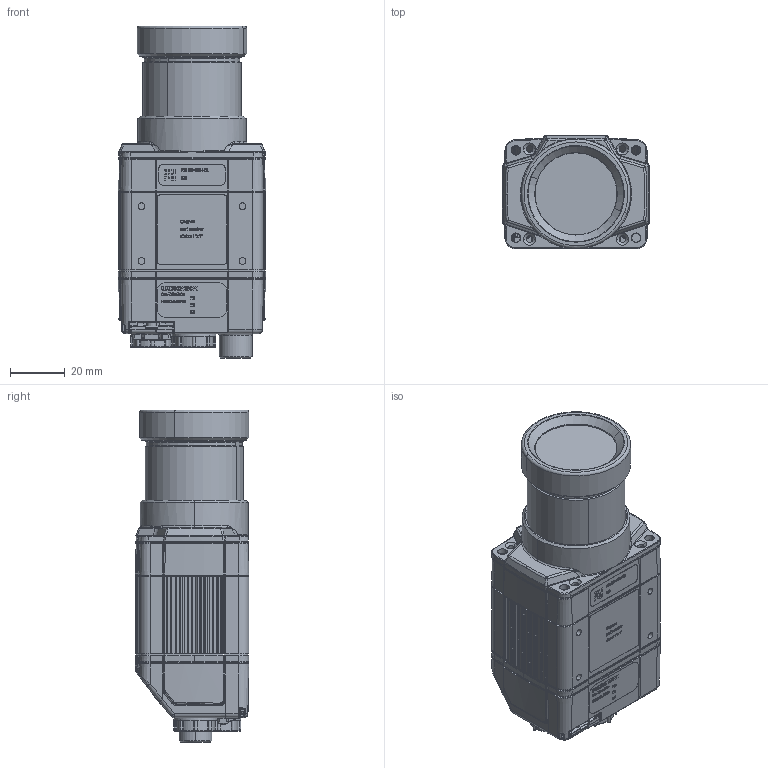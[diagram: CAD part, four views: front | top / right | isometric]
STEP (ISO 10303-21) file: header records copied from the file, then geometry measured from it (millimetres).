
FILE_DESCRIPTION (( 'STEP AP214' ), '1' );
FILE_NAME ('DM360_Mounting_C-Mount_Cover.STEP', '2015-04-27T14:08:36', ( '' ), ( '' ), 'SwSTEP 2.0', 'SolidWorks 2014', '' );
FILE_SCHEMA (( 'AUTOMOTIVE_DESIGN' ));
Length unit declared in the file: millimetre
Products named in the file (2): DM360_Mounting_C-Mount_Cover
Bounding box: 54 x 41.6 x 121.5 mm (x, y, z)
Surface area: 31720.6 mm2 (no closed solid volume)
Topology: 0 solids, 98 shells, 1641 faces, 6669 edges, 5103 vertices
Faces by surface type: plane 549, cylinder 472, bspline 307, cone 156, torus 146, sphere 11
Entity records: 107475 total; most frequent: CARTESIAN_POINT 38109, ORIENTED_EDGE 10444, DIRECTION 9455, EDGE_CURVE 6642, VERTEX_POINT 5103, AXIS2_PLACEMENT_3D 3232, LINE 2991, VECTOR 2991
